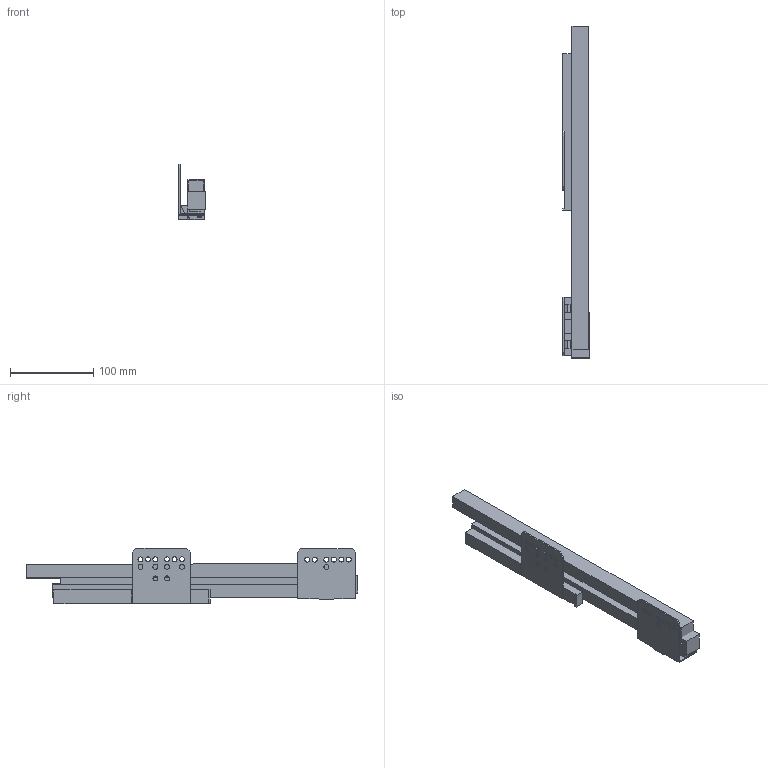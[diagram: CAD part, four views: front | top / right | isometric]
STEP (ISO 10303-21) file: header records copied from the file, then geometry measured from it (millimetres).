
FILE_DESCRIPTION (( 'STEP AP214' ), '1' );
FILE_NAME ('_IMOS Dynamic-XP VA 40kg NL400 LI.step', '2010-07-07T08:06:06', ( 'grass' ), ( '' ), 'SwSTEP 2.0', 'SolidWorks 2010', '' );
FILE_SCHEMA (( 'AUTOMOTIVE_DESIGN' ));
Length unit declared in the file: millimetre
Products named in the file (1): _IMOS Dynamic-XP VA 40kg NL400 LI
Bounding box: 32.04 x 399.89 x 66.67 mm (x, y, z)
Volume: 379579.5 mm3; surface area: 135606.3 mm2
Topology: 7 solids, 7 shells, 151 faces, 411 edges, 274 vertices
Faces by surface type: plane 111, cylinder 40
Entity records: 4913 total; most frequent: CARTESIAN_POINT 837, ORIENTED_EDGE 822, DIRECTION 795, EDGE_CURVE 411, VECTOR 331, LINE 331, VERTEX_POINT 274, AXIS2_PLACEMENT_3D 232
